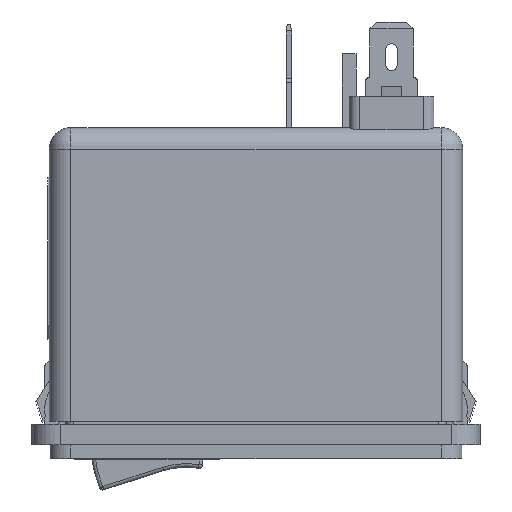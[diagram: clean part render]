
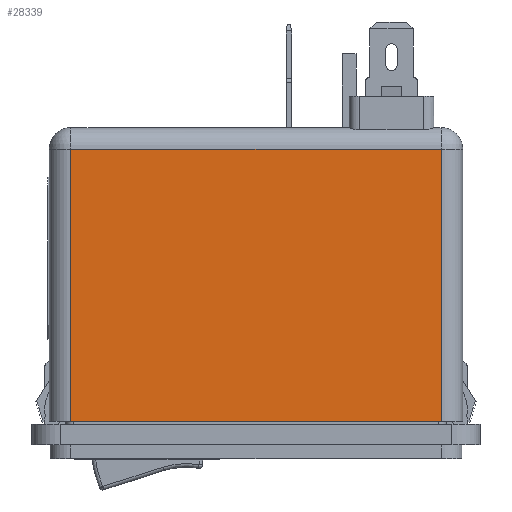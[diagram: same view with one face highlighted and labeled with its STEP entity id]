
A CAD part, left-side view. The second image highlights one B-rep face of the part: STEP entity #28339.
In plain terms, the highlighted planar face has unit normal (-1, 0, 0).
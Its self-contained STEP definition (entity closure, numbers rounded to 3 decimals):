
#26979=CARTESIAN_POINT('',(-14.25,-8.775,24.775));
#26980=VERTEX_POINT('',#26979);
#26988=CARTESIAN_POINT('',(-14.25,44.875,24.775));
#26989=VERTEX_POINT('',#26988);
#26990=CARTESIAN_POINT('',(-14.25,-8.775,24.775));
#26991=DIRECTION('',(0.0,1.0,0.0));
#26992=VECTOR('',#26991,53.65);
#26993=LINE('',#26990,#26992);
#26994=EDGE_CURVE('',#26980,#26989,#26993,.T.);
#27726=CARTESIAN_POINT('',(-14.25,-8.775,64.225));
#27727=VERTEX_POINT('',#27726);
#27773=CARTESIAN_POINT('',(-14.25,44.875,64.225));
#27774=VERTEX_POINT('',#27773);
#27817=CARTESIAN_POINT('',(-14.25,44.875,24.775));
#27818=DIRECTION('',(0.0,0.0,1.0));
#27819=VECTOR('',#27818,39.45);
#27820=LINE('',#27817,#27819);
#27821=EDGE_CURVE('',#26989,#27774,#27820,.T.);
#27836=CARTESIAN_POINT('',(-14.25,44.875,64.225));
#27837=DIRECTION('',(0.0,-1.0,0.0));
#27838=VECTOR('',#27837,53.65);
#27839=LINE('',#27836,#27838);
#27840=EDGE_CURVE('',#27774,#27727,#27839,.T.);
#27874=CARTESIAN_POINT('',(-14.25,-8.775,64.225));
#27875=DIRECTION('',(0.0,0.0,-1.0));
#27876=VECTOR('',#27875,39.45);
#27877=LINE('',#27874,#27876);
#27878=EDGE_CURVE('',#27727,#26980,#27877,.T.);
#28328=CARTESIAN_POINT('',(-14.25,-11.925,24.775));
#28329=DIRECTION('',(-1.0,0.0,0.0));
#28330=DIRECTION('',(0.0,0.0,1.0));
#28331=AXIS2_PLACEMENT_3D('',#28328,#28329,#28330);
#28332=PLANE('',#28331);
#28333=ORIENTED_EDGE('',*,*,#27821,.F.);
#28334=ORIENTED_EDGE('',*,*,#26994,.F.);
#28335=ORIENTED_EDGE('',*,*,#27878,.F.);
#28336=ORIENTED_EDGE('',*,*,#27840,.F.);
#28337=EDGE_LOOP('',(#28333,#28334,#28335,#28336));
#28338=FACE_OUTER_BOUND('',#28337,.T.);
#28339=ADVANCED_FACE('',(#28338),#28332,.T.);
